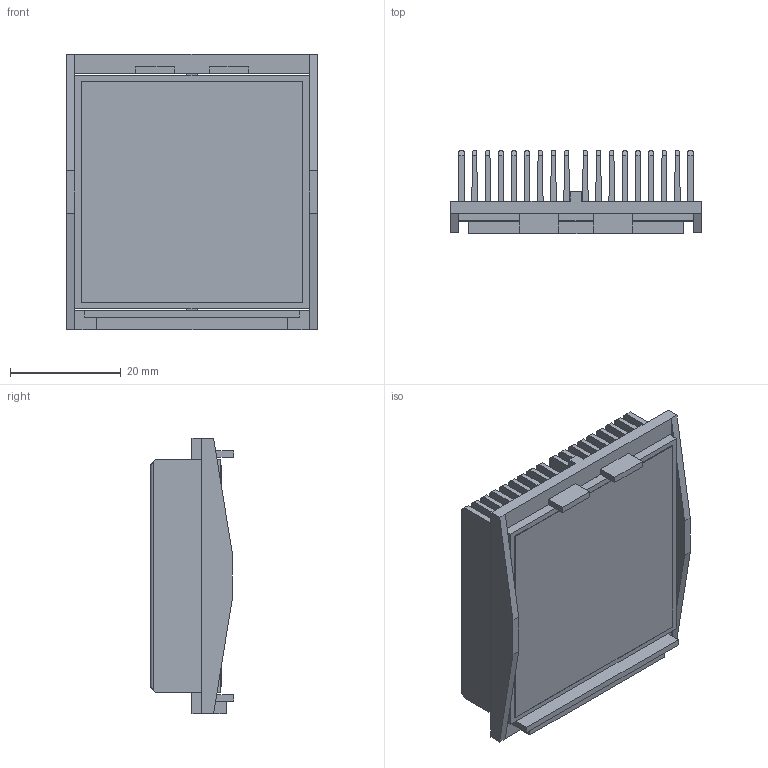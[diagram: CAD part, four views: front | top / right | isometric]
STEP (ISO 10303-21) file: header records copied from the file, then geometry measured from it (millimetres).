
FILE_DESCRIPTION (( 'STEP AP214' ), '1' );
FILE_NAME ('INL42.5001-13-1.7Y.STEP', '2023-03-01T18:27:18', ( '' ), ( '' ), 'SwSTEP 2.0', 'SolidWorks 2020', '' );
FILE_SCHEMA (( 'AUTOMOTIVE_DESIGN' ));
Length unit declared in the file: millimetre
Products named in the file (1): INL42.5001-13-1.7Y
Bounding box: 45.2 x 15 x 49.6 mm (x, y, z)
Volume: 12618.7 mm3; surface area: 26289.5 mm2
Topology: 3 solids, 3 shells, 198 faces, 578 edges, 384 vertices
Faces by surface type: plane 146, cylinder 52
Entity records: 8712 total; most frequent: CARTESIAN_POINT 1269, ORIENTED_EDGE 1156, DIRECTION 1008, EDGE_CURVE 578, LINE 474, VECTOR 474, VERTEX_POINT 384, AXIS2_PLACEMENT_3D 267
